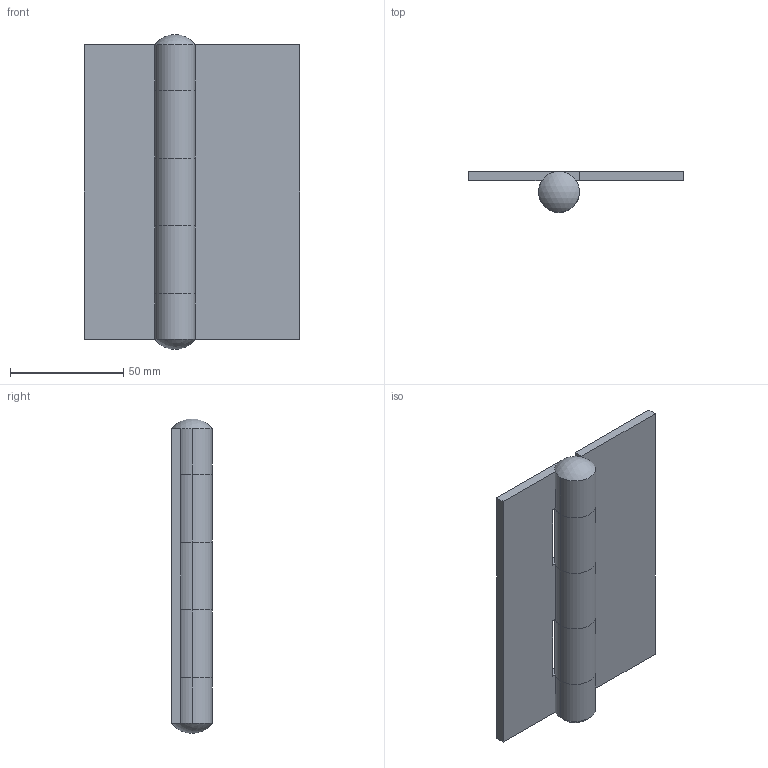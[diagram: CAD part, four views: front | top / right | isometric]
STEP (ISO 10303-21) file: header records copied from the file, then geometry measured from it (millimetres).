
FILE_DESCRIPTION((''),'2;1');
FILE_NAME('6054.03.stp','2015-07-20T11:16:41',(''),(''),'Mechanical Desktop 2006','Mechanical Desktop 2006',', , ');
FILE_SCHEMA(('CONFIG_CONTROL_DESIGN'));
Length unit declared in the file: millimetre
Products named in the file (1): 6054.03
Bounding box: 95 x 18 x 139 mm (x, y, z)
Volume: 71770 mm3; surface area: 40170.7 mm2
Topology: 2 solids, 2 shells, 64 faces, 174 edges, 114 vertices
Faces by surface type: cylinder 32, plane 30, sphere 2
Entity records: 2135 total; most frequent: DIRECTION 372, CARTESIAN_POINT 353, ORIENTED_EDGE 348, EDGE_CURVE 174, AXIS2_PLACEMENT_3D 133, VERTEX_POINT 114, VECTOR 106, LINE 106
